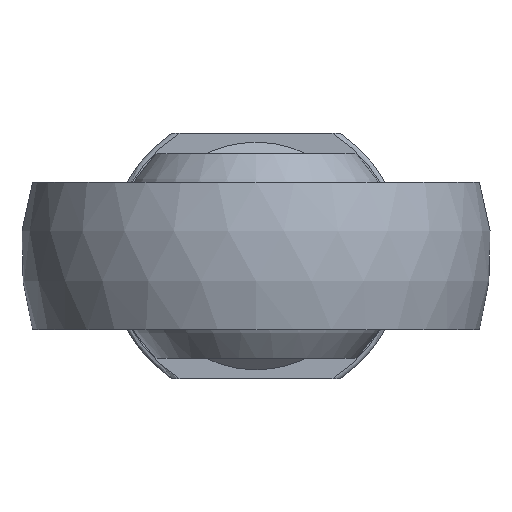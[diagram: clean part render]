
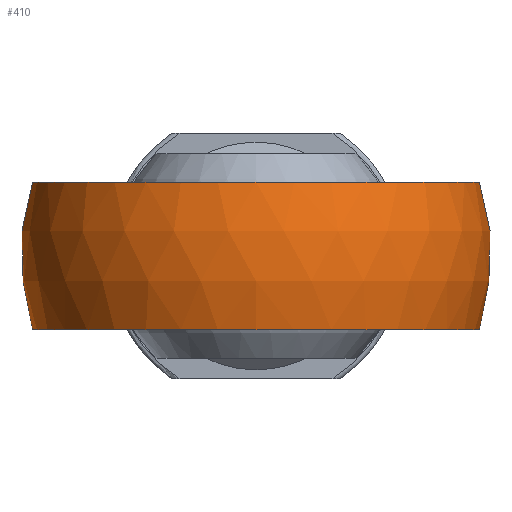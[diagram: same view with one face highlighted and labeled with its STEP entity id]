
A CAD part, front view. The second image highlights one B-rep face of the part: STEP entity #410.
In plain terms, the highlighted spherical face has radius 10.35 mm.
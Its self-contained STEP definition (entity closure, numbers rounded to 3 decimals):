
#64=SPHERICAL_SURFACE('',#466,10.35);
#117=FACE_OUTER_BOUND('',#157,.T.);
#157=EDGE_LOOP('',(#368,#369,#370,#371));
#182=CIRCLE('',#455,9.826);
#184=CIRCLE('',#460,9.826);
#186=CIRCLE('',#463,5.);
#187=CIRCLE('',#464,5.);
#218=VERTEX_POINT('',#755);
#219=VERTEX_POINT('',#757);
#223=VERTEX_POINT('',#768);
#224=VERTEX_POINT('',#770);
#265=EDGE_CURVE('',#219,#218,#182,.T.);
#271=EDGE_CURVE('',#224,#223,#184,.T.);
#274=EDGE_CURVE('',#219,#223,#186,.T.);
#275=EDGE_CURVE('',#224,#218,#187,.T.);
#368=ORIENTED_EDGE('',*,*,#265,.T.);
#369=ORIENTED_EDGE('',*,*,#275,.F.);
#370=ORIENTED_EDGE('',*,*,#271,.T.);
#371=ORIENTED_EDGE('',*,*,#274,.F.);
#410=ADVANCED_FACE('',(#117),#64,.T.);
#455=AXIS2_PLACEMENT_3D('',#758,#559,#560);
#460=AXIS2_PLACEMENT_3D('',#771,#572,#573);
#463=AXIS2_PLACEMENT_3D('',#776,#579,#580);
#464=AXIS2_PLACEMENT_3D('',#777,#581,#582);
#466=AXIS2_PLACEMENT_3D('',#779,#585,#586);
#559=DIRECTION('center_axis',(0.,0.,1.));
#560=DIRECTION('ref_axis',(0.,1.,0.));
#572=DIRECTION('center_axis',(0.,0.,-1.));
#573=DIRECTION('ref_axis',(0.,-1.,0.));
#579=DIRECTION('center_axis',(0.,1.,0.));
#580=DIRECTION('ref_axis',(1.,0.,0.));
#581=DIRECTION('center_axis',(0.,1.,0.));
#582=DIRECTION('ref_axis',(1.,0.,0.));
#585=DIRECTION('center_axis',(0.,0.,1.));
#586=DIRECTION('ref_axis',(1.,0.,0.));
#755=CARTESIAN_POINT('',(3.8,9.062,-3.25));
#757=CARTESIAN_POINT('',(-3.8,9.062,-3.25));
#758=CARTESIAN_POINT('Origin',(0.,0.,-3.25));
#768=CARTESIAN_POINT('',(-3.8,9.062,3.25));
#770=CARTESIAN_POINT('',(3.8,9.062,3.25));
#771=CARTESIAN_POINT('Origin',(0.,0.,3.25));
#776=CARTESIAN_POINT('Origin',(0.,9.062,0.));
#777=CARTESIAN_POINT('Origin',(0.,9.062,0.));
#779=CARTESIAN_POINT('Origin',(0.,0.,0.));
